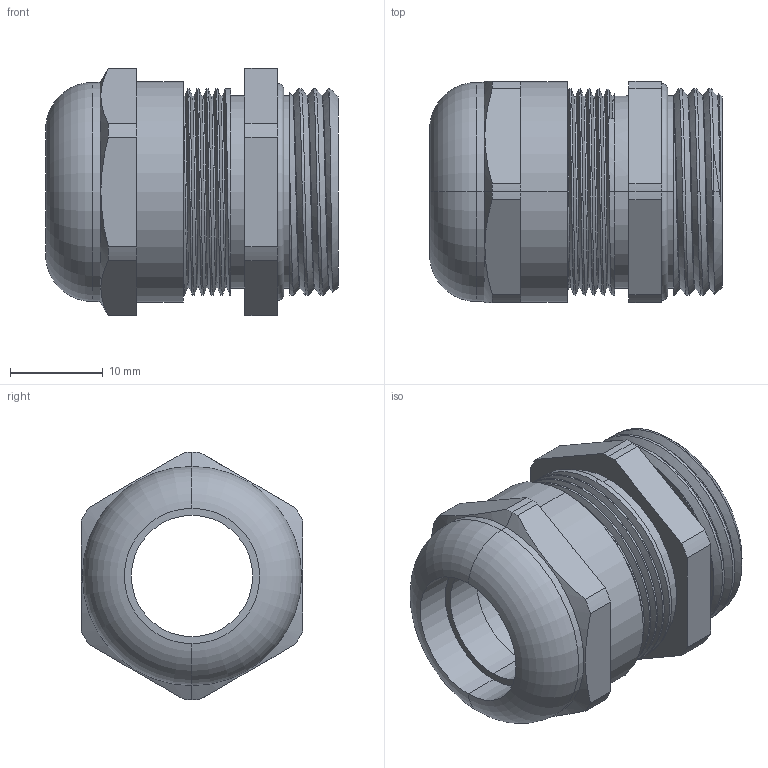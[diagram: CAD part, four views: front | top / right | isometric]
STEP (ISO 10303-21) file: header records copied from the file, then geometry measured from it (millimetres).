
FILE_DESCRIPTION (( 'STEP AP214' ), '1' );
FILE_NAME ('MCGB-16.STEP', '2008-09-02T17:17:21', ( 'Bruce Mistarz' ), ( 'Mencom Corp' ), 'SwSTEP 2.0', 'SolidWorks 2008', '' );
FILE_SCHEMA (( 'AUTOMOTIVE_DESIGN' ));
Length unit declared in the file: inch
Products named in the file (1): MCGB-16
Bounding box: 31.5 x 23.9 x 26.67 mm (x, y, z)
Volume: 7476.2 mm3; surface area: 5239 mm2
Topology: 1 solids, 1 shells, 95 faces, 243 edges, 158 vertices
Faces by surface type: cylinder 51, plane 26, cone 7, bspline 7, torus 4
Entity records: 5765 total; most frequent: CARTESIAN_POINT 2306, ORIENTED_EDGE 486, DIRECTION 443, EDGE_CURVE 243, AXIS2_PLACEMENT_3D 173, VERTEX_POINT 158, EDGE_LOOP 105, LENGTH_MEASURE_WITH_UNIT 97
